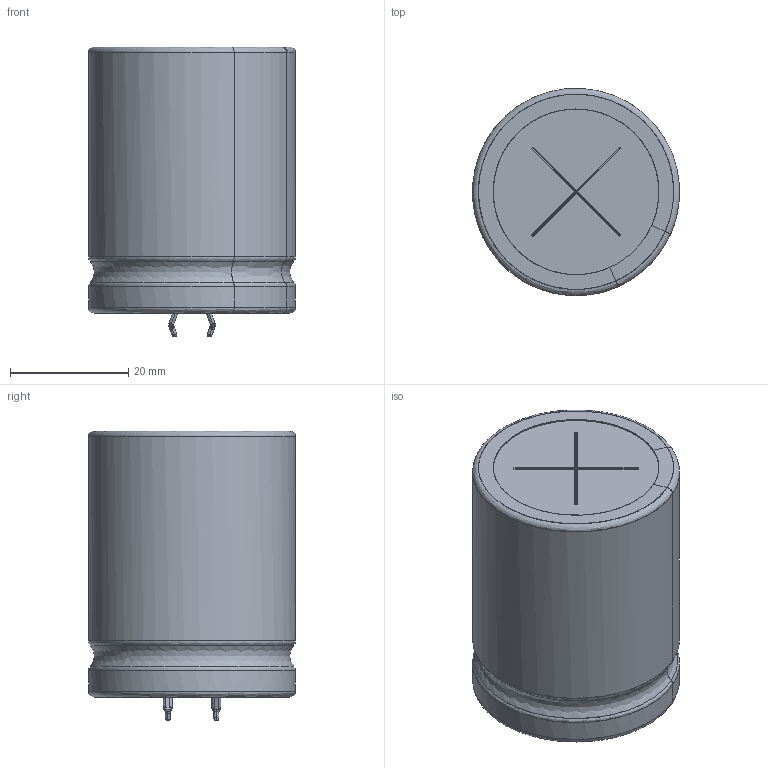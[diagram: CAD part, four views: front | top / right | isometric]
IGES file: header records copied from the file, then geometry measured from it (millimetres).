
Start section: JAMA-IS VERSION  1.0
Bounding box: 34.97 x 34.97 x 49.02 mm (x, y, z)
Surface area: 18008.9 mm2 (no closed solid volume)
Topology: 0 solids, 0 shells, 208 faces, 2354 edges, 2318 vertices
Faces by surface type: bspline 208
